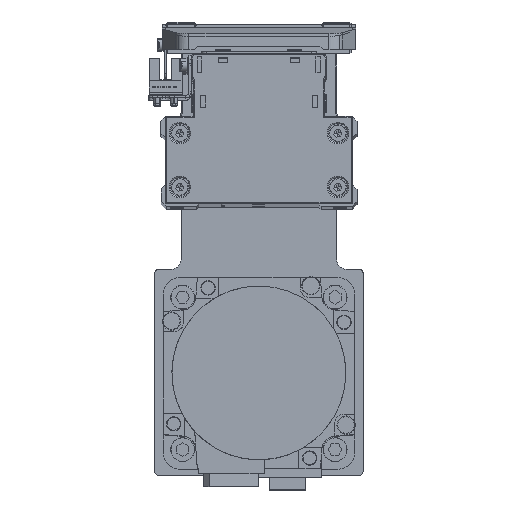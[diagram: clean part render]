
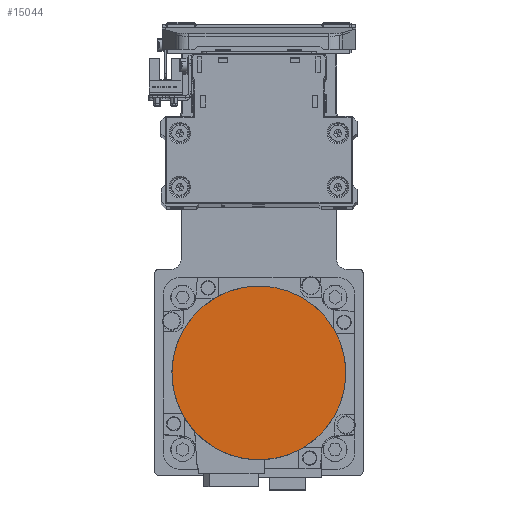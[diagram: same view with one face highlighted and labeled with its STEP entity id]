
A CAD part, top view. The second image highlights one B-rep face of the part: STEP entity #15044.
In plain terms, the highlighted planar face has unit normal (0, 0, 1) as drawn and (0, 0, -1) by its records, which use the part's own axes.
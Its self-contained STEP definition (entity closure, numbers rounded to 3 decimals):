
#2319 = CARTESIAN_POINT ( 'NONE',  ( 0., -36.3, -122.2 ) ) ;
#2912 = EDGE_CURVE ( 'NONE', #10025, #32911, #37294, .T. ) ;
#4870 = DIRECTION ( 'NONE',  ( 0., 1., 0. ) ) ;
#8778 = EDGE_LOOP ( 'NONE', ( #10115, #14254 ) ) ;
#10025 = VERTEX_POINT ( 'NONE', #33211 ) ;
#10115 = ORIENTED_EDGE ( 'NONE', *, *, #2912, .F. ) ;
#10789 = CARTESIAN_POINT ( 'NONE',  ( 0., 0., -122.2 ) ) ;
#11838 = DIRECTION ( 'NONE',  ( 0., 0., 1. ) ) ;
#14254 = ORIENTED_EDGE ( 'NONE', *, *, #34504, .F. ) ;
#15044 = ADVANCED_FACE ( 'NONE', ( #26056 ), #38271, .F. ) ;
#20007 = AXIS2_PLACEMENT_3D ( 'NONE', #20129, #32376, #4870 ) ;
#20129 = CARTESIAN_POINT ( 'NONE',  ( 0., 0., -122.2 ) ) ;
#20617 = AXIS2_PLACEMENT_3D ( 'NONE', #10789, #23035, #35270 ) ;
#20788 = AXIS2_PLACEMENT_3D ( 'NONE', #39331, #11838, #24097 ) ;
#23035 = DIRECTION ( 'NONE',  ( 0., 0., 1. ) ) ;
#24097 = DIRECTION ( 'NONE',  ( 0., -1., 0. ) ) ;
#26056 = FACE_OUTER_BOUND ( 'NONE', #8778, .T. ) ;
#32376 = DIRECTION ( 'NONE',  ( 0., 0., 1. ) ) ;
#32911 = VERTEX_POINT ( 'NONE', #2319 ) ;
#33211 = CARTESIAN_POINT ( 'NONE',  ( 0., 36.3, -122.2 ) ) ;
#34504 = EDGE_CURVE ( 'NONE', #32911, #10025, #38086, .T. ) ;
#35270 = DIRECTION ( 'NONE',  ( 1., 0., 0. ) ) ;
#37294 = CIRCLE ( 'NONE', #20007, 36.3 ) ;
#38086 = CIRCLE ( 'NONE', #20788, 36.3 ) ;
#38271 = PLANE ( 'NONE',  #20617 ) ;
#39331 = CARTESIAN_POINT ( 'NONE',  ( 0., 0., -122.2 ) ) ;
